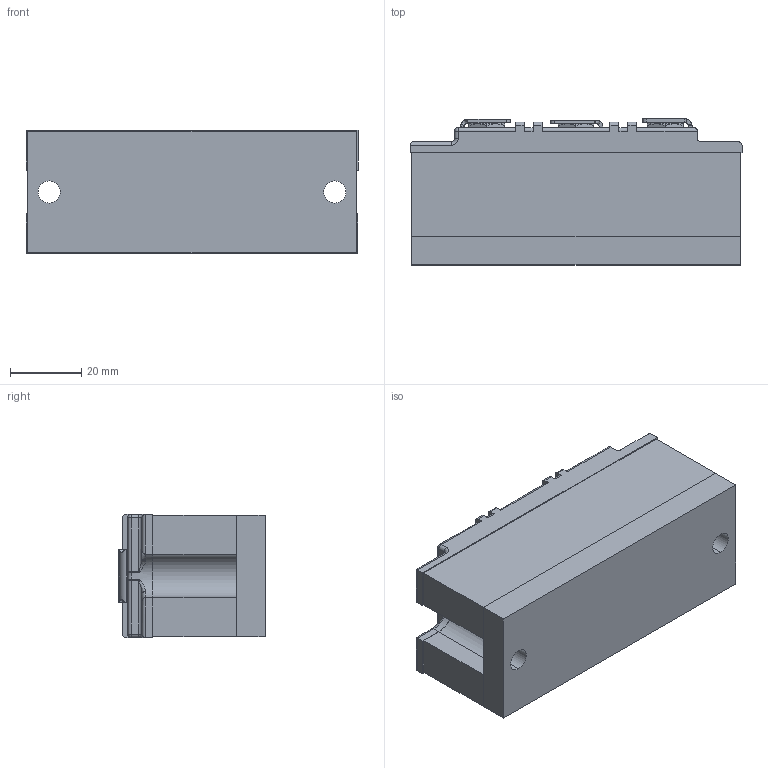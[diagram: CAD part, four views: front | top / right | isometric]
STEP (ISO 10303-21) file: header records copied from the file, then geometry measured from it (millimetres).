
FILE_DESCRIPTION (( 'STEP AP214' ), '1' );
FILE_NAME ('MTD2-D.STEP', '2021-02-08T07:09:53', ( '' ), ( '' ), 'SwSTEP 2.0', 'SolidWorks 2018', '' );
FILE_SCHEMA (( 'AUTOMOTIVE_DESIGN' ));
Length unit declared in the file: millimetre
Products named in the file (1): MTD2-D
Bounding box: 93 x 40.97 x 34.6 mm (x, y, z)
Volume: 57429.2 mm3; surface area: 51607.1 mm2
Topology: 9 solids, 9 shells, 608 faces, 1600 edges, 1009 vertices
Faces by surface type: plane 401, cylinder 163, cone 18, bspline 10, torus 9, sphere 7
Entity records: 26330 total; most frequent: CARTESIAN_POINT 4381, ORIENTED_EDGE 3186, DIRECTION 3070, EDGE_CURVE 1593, LINE 1146, VECTOR 1146, VERTEX_POINT 1009, AXIS2_PLACEMENT_3D 962
